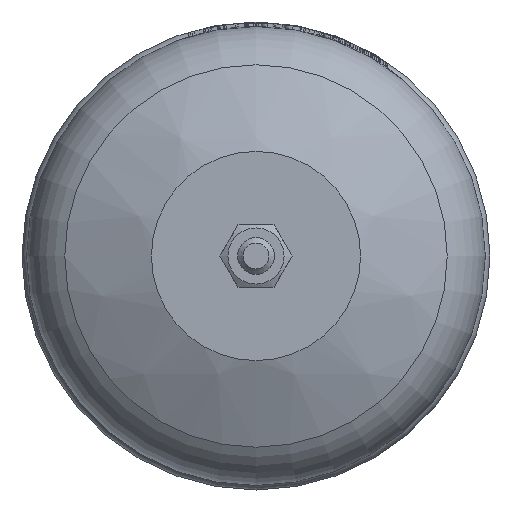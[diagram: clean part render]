
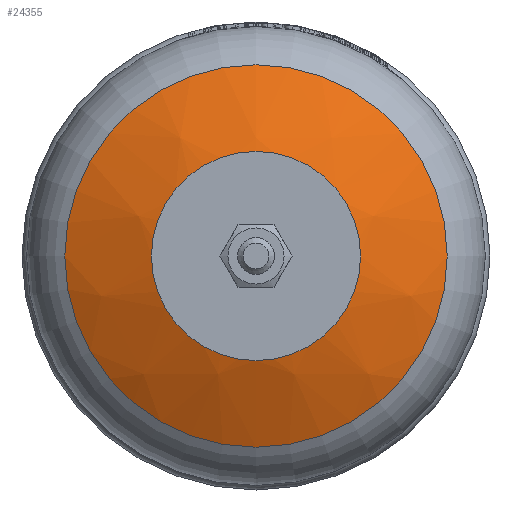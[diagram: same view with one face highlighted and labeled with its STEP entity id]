
A CAD part, front view. The second image highlights one B-rep face of the part: STEP entity #24355.
In plain terms, the highlighted spherical face has radius 105.405 mm.
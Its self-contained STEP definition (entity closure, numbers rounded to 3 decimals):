
#21=SPHERICAL_SURFACE('',#26159,105.405);
#1143=FACE_BOUND('',#5673,.T.);
#4180=FACE_OUTER_BOUND('',#5672,.T.);
#5672=EDGE_LOOP('',(#22872));
#5673=EDGE_LOOP('',(#22873));
#9563=CIRCLE('',#26160,52.119);
#9564=CIRCLE('',#26161,28.5);
#11993=VERTEX_POINT('',#52384);
#11994=VERTEX_POINT('',#52386);
#15622=EDGE_CURVE('',#11993,#11993,#9563,.T.);
#15623=EDGE_CURVE('',#11994,#11994,#9564,.T.);
#22872=ORIENTED_EDGE('',*,*,#15622,.F.);
#22873=ORIENTED_EDGE('',*,*,#15623,.T.);
#24355=ADVANCED_FACE('',(#4180,#1143),#21,.T.);
#26159=AXIS2_PLACEMENT_3D('',#52383,#31473,#31474);
#26160=AXIS2_PLACEMENT_3D('',#52385,#31475,#31476);
#26161=AXIS2_PLACEMENT_3D('',#52387,#31477,#31478);
#31473=DIRECTION('center_axis',(0.,0.,
-1.));
#31474=DIRECTION('ref_axis',(-1.,0.,0.));
#31475=DIRECTION('center_axis',(0.,1.,0.));
#31476=DIRECTION('ref_axis',(-1.,0.,0.));
#31477=DIRECTION('center_axis',(0.,1.,0.));
#31478=DIRECTION('ref_axis',(-1.,0.,0.));
#52383=CARTESIAN_POINT('Origin',(0.,-69.936,
0.));
#52384=CARTESIAN_POINT('',(-52.119,-161.554,0.));
#52385=CARTESIAN_POINT('Origin',(0.,-161.554,
0.));
#52386=CARTESIAN_POINT('',(-28.5,-171.415,0.));
#52387=CARTESIAN_POINT('Origin',(0.,-171.415,
0.));
